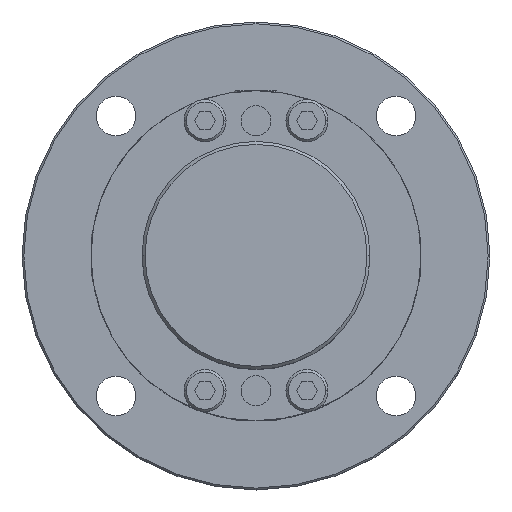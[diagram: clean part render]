
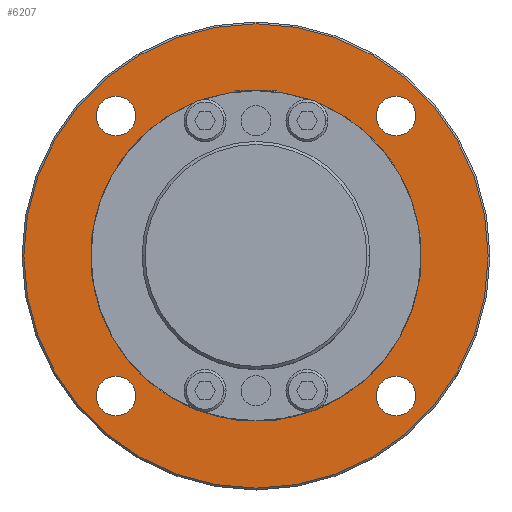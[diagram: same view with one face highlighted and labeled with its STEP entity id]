
A CAD part, top view. The second image highlights one B-rep face of the part: STEP entity #6207.
In plain terms, the highlighted planar face has unit normal (0, 0, 1).
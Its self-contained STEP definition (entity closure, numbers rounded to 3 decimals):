
#1193=CARTESIAN_POINT('',(0.,27.5,-11.0));
#1194=VERTEX_POINT('',#1193);
#1203=CARTESIAN_POINT('',(0.,-27.5,-11.0));
#1204=VERTEX_POINT('',#1203);
#1205=CARTESIAN_POINT('',(0.0,0.0,-11.0));
#1206=DIRECTION('',(0.0,0.0,-1.0));
#1207=DIRECTION('',(0.0,1.0,0.0));
#1208=AXIS2_PLACEMENT_3D('',#1205,#1206,#1207);
#1209=CIRCLE('',#1208,27.5);
#1210=EDGE_CURVE('',#1204,#1194,#1209,.T.);
#1285=CARTESIAN_POINT('',(-23.335,26.635,-11.0));
#1286=VERTEX_POINT('',#1285);
#1295=CARTESIAN_POINT('',(-23.335,20.035,-11.0));
#1296=VERTEX_POINT('',#1295);
#1297=CARTESIAN_POINT('',(-23.335,23.335,-11.0));
#1298=DIRECTION('',(0.0,0.0,-1.0));
#1299=DIRECTION('',(0.0,1.0,0.0));
#1300=AXIS2_PLACEMENT_3D('',#1297,#1298,#1299);
#1301=CIRCLE('',#1300,3.3);
#1302=EDGE_CURVE('',#1296,#1286,#1301,.T.);
#1327=CARTESIAN_POINT('',(23.335,-20.035,-11.0));
#1328=VERTEX_POINT('',#1327);
#1337=CARTESIAN_POINT('',(23.335,-26.635,-11.0));
#1338=VERTEX_POINT('',#1337);
#1339=CARTESIAN_POINT('',(23.335,-23.335,-11.0));
#1340=DIRECTION('',(0.0,0.0,-1.0));
#1341=DIRECTION('',(0.0,1.0,0.0));
#1342=AXIS2_PLACEMENT_3D('',#1339,#1340,#1341);
#1343=CIRCLE('',#1342,3.3);
#1344=EDGE_CURVE('',#1338,#1328,#1343,.T.);
#1369=CARTESIAN_POINT('',(-23.335,-20.035,-11.0));
#1370=VERTEX_POINT('',#1369);
#1379=CARTESIAN_POINT('',(-23.335,-26.635,-11.0));
#1380=VERTEX_POINT('',#1379);
#1381=CARTESIAN_POINT('',(-23.335,-23.335,-11.0));
#1382=DIRECTION('',(0.0,0.0,-1.0));
#1383=DIRECTION('',(0.0,1.0,0.0));
#1384=AXIS2_PLACEMENT_3D('',#1381,#1382,#1383);
#1385=CIRCLE('',#1384,3.3);
#1386=EDGE_CURVE('',#1380,#1370,#1385,.T.);
#1411=CARTESIAN_POINT('',(23.335,26.635,-11.0));
#1412=VERTEX_POINT('',#1411);
#1421=CARTESIAN_POINT('',(23.335,20.035,-11.0));
#1422=VERTEX_POINT('',#1421);
#1423=CARTESIAN_POINT('',(23.335,23.335,-11.0));
#1424=DIRECTION('',(0.0,0.0,-1.0));
#1425=DIRECTION('',(0.0,1.0,0.0));
#1426=AXIS2_PLACEMENT_3D('',#1423,#1424,#1425);
#1427=CIRCLE('',#1426,3.3);
#1428=EDGE_CURVE('',#1422,#1412,#1427,.T.);
#1663=CARTESIAN_POINT('',(0.,-38.7,-11.0));
#1664=VERTEX_POINT('',#1663);
#1673=CARTESIAN_POINT('',(0.,38.7,-11.0));
#1674=VERTEX_POINT('',#1673);
#1675=CARTESIAN_POINT('',(0.0,0.0,-11.0));
#1676=DIRECTION('',(0.0,0.0,-1.0));
#1677=DIRECTION('',(0.0,-1.0,0.0));
#1678=AXIS2_PLACEMENT_3D('',#1675,#1676,#1677);
#1679=CIRCLE('',#1678,38.7);
#1680=EDGE_CURVE('',#1664,#1674,#1679,.T.);
#6138=CARTESIAN_POINT('',(0.0,0.0,-11.0));
#6139=DIRECTION('',(0.0,0.0,-1.0));
#6140=DIRECTION('',(0.0,-1.0,0.0));
#6141=AXIS2_PLACEMENT_3D('',#6138,#6139,#6140);
#6142=CIRCLE('',#6141,38.7);
#6143=EDGE_CURVE('',#1674,#1664,#6142,.T.);
#6148=CARTESIAN_POINT('',(0.,3.545,-11.0));
#6149=DIRECTION('',(0.0,0.0,1.0));
#6150=DIRECTION('',(0.0,1.0,0.0));
#6151=AXIS2_PLACEMENT_3D('',#6148,#6149,#6150);
#6152=PLANE('',#6151);
#6153=ORIENTED_EDGE('',*,*,#6143,.F.);
#6154=ORIENTED_EDGE('',*,*,#1680,.F.);
#6155=EDGE_LOOP('',(#6153,#6154));
#6156=FACE_OUTER_BOUND('',#6155,.T.);
#6157=ORIENTED_EDGE('',*,*,#1210,.T.);
#6158=CARTESIAN_POINT('',(0.0,0.0,-11.0));
#6159=DIRECTION('',(0.0,0.0,-1.0));
#6160=DIRECTION('',(0.0,1.0,0.0));
#6161=AXIS2_PLACEMENT_3D('',#6158,#6159,#6160);
#6162=CIRCLE('',#6161,27.5);
#6163=EDGE_CURVE('',#1194,#1204,#6162,.T.);
#6164=ORIENTED_EDGE('',*,*,#6163,.T.);
#6165=EDGE_LOOP('',(#6157,#6164));
#6166=FACE_BOUND('',#6165,.T.);
#6167=ORIENTED_EDGE('',*,*,#1302,.T.);
#6168=CARTESIAN_POINT('',(-23.335,23.335,-11.0));
#6169=DIRECTION('',(0.0,0.0,-1.0));
#6170=DIRECTION('',(0.0,1.0,0.0));
#6171=AXIS2_PLACEMENT_3D('',#6168,#6169,#6170);
#6172=CIRCLE('',#6171,3.3);
#6173=EDGE_CURVE('',#1286,#1296,#6172,.T.);
#6174=ORIENTED_EDGE('',*,*,#6173,.T.);
#6175=EDGE_LOOP('',(#6167,#6174));
#6176=FACE_BOUND('',#6175,.T.);
#6177=ORIENTED_EDGE('',*,*,#1344,.T.);
#6178=CARTESIAN_POINT('',(23.335,-23.335,-11.0));
#6179=DIRECTION('',(0.0,0.0,-1.0));
#6180=DIRECTION('',(0.0,1.0,0.0));
#6181=AXIS2_PLACEMENT_3D('',#6178,#6179,#6180);
#6182=CIRCLE('',#6181,3.3);
#6183=EDGE_CURVE('',#1328,#1338,#6182,.T.);
#6184=ORIENTED_EDGE('',*,*,#6183,.T.);
#6185=EDGE_LOOP('',(#6177,#6184));
#6186=FACE_BOUND('',#6185,.T.);
#6187=ORIENTED_EDGE('',*,*,#1386,.T.);
#6188=CARTESIAN_POINT('',(-23.335,-23.335,-11.0));
#6189=DIRECTION('',(0.0,0.0,-1.0));
#6190=DIRECTION('',(0.0,1.0,0.0));
#6191=AXIS2_PLACEMENT_3D('',#6188,#6189,#6190);
#6192=CIRCLE('',#6191,3.3);
#6193=EDGE_CURVE('',#1370,#1380,#6192,.T.);
#6194=ORIENTED_EDGE('',*,*,#6193,.T.);
#6195=EDGE_LOOP('',(#6187,#6194));
#6196=FACE_BOUND('',#6195,.T.);
#6197=ORIENTED_EDGE('',*,*,#1428,.T.);
#6198=CARTESIAN_POINT('',(23.335,23.335,-11.0));
#6199=DIRECTION('',(0.0,0.0,-1.0));
#6200=DIRECTION('',(0.0,1.0,0.0));
#6201=AXIS2_PLACEMENT_3D('',#6198,#6199,#6200);
#6202=CIRCLE('',#6201,3.3);
#6203=EDGE_CURVE('',#1412,#1422,#6202,.T.);
#6204=ORIENTED_EDGE('',*,*,#6203,.T.);
#6205=EDGE_LOOP('',(#6197,#6204));
#6206=FACE_BOUND('',#6205,.T.);
#6207=ADVANCED_FACE('',(#6156,#6166,#6176,#6186,#6196,#6206),#6152,.T.);
